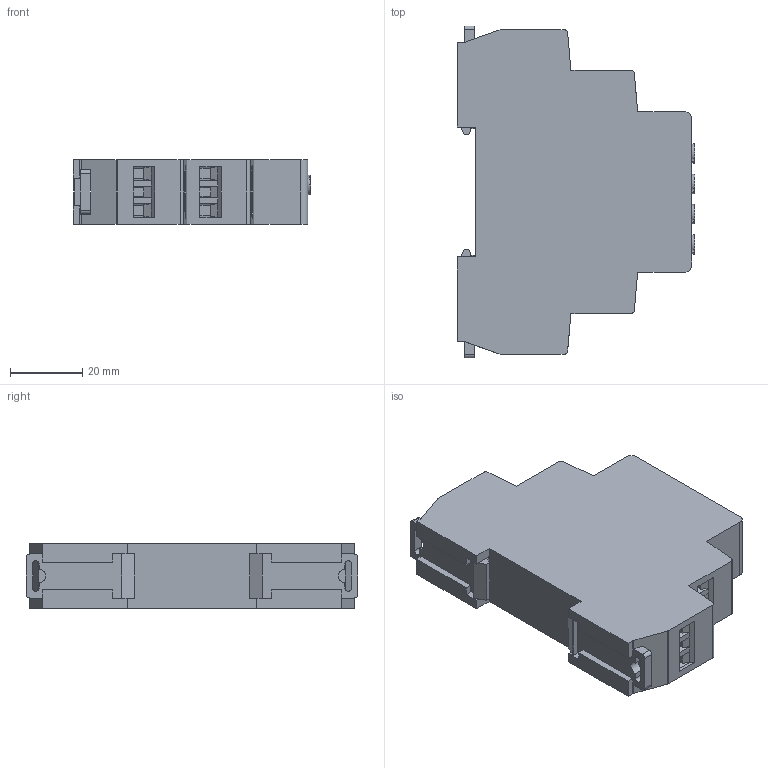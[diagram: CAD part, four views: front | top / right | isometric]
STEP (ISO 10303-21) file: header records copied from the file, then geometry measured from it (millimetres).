
FILE_DESCRIPTION (( 'STEP AP203' ), '1' );
FILE_NAME ('Ðåëå âðåìåíè RT-2ZS.STEP', '2021-11-25T20:41:31', ( '' ), ( '' ), 'SwSTEP 2.0', 'SolidWorks 2017', '' );
FILE_SCHEMA (( 'CONFIG_CONTROL_DESIGN' ));
Length unit declared in the file: millimetre
Products named in the file (1): Ðåëå âðåìåíè RT-2ZS
Bounding box: 65.8 x 92 x 18 mm (x, y, z)
Volume: 79659.9 mm3; surface area: 18323.8 mm2
Topology: 6 solids, 6 shells, 517 faces, 1359 edges, 888 vertices
Faces by surface type: plane 363, cylinder 126, torus 24, sphere 4
Entity records: 15846 total; most frequent: CARTESIAN_POINT 2783, ORIENTED_EDGE 2702, DIRECTION 2675, EDGE_CURVE 1351, VECTOR 1043, LINE 1043, VERTEX_POINT 884, AXIS2_PLACEMENT_3D 816
